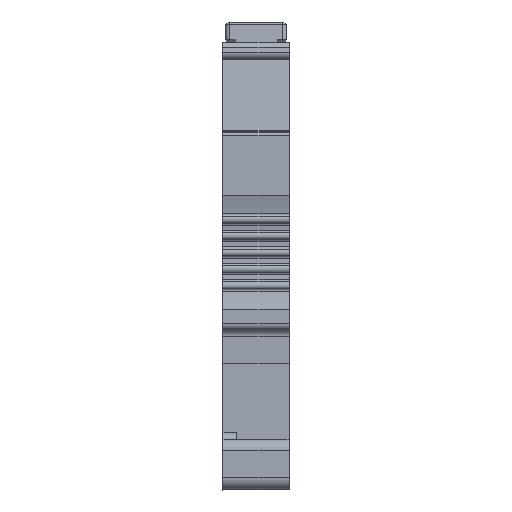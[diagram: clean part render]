
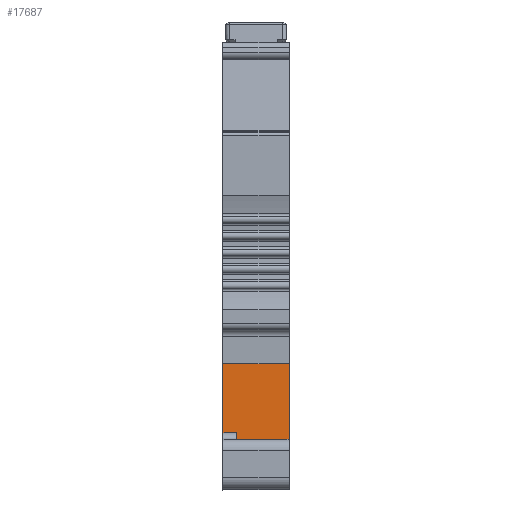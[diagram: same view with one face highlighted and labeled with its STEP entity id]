
A CAD part, front view. The second image highlights one B-rep face of the part: STEP entity #17687.
In plain terms, the highlighted planar face has unit normal (0, -1, 0).
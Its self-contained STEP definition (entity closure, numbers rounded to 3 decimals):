
#1972=DIRECTION('',(0.,0.,1.));
#1973=VECTOR('',#1972,5.45);
#1974=CARTESIAN_POINT('',(6.95,3.6,4.5));
#1975=LINE('',#1974,#1973);
#2803=DIRECTION('',(-1.,0.,0.));
#2804=VECTOR('',#2803,1.05);
#2805=CARTESIAN_POINT('',(8.,3.6,4.5));
#2806=LINE('',#2805,#2804);
#2807=DIRECTION('',(0.,0.,1.));
#2808=VECTOR('',#2807,7.95);
#2809=CARTESIAN_POINT('',(12.15,3.6,2.));
#2810=LINE('',#2809,#2808);
#2811=DIRECTION('',(0.,0.,-1.));
#2812=VECTOR('',#2811,2.5);
#2813=CARTESIAN_POINT('',(8.,3.6,4.5));
#2814=LINE('',#2813,#2812);
#2815=DIRECTION('',(-1.,0.,0.));
#2816=VECTOR('',#2815,5.2);
#2817=CARTESIAN_POINT('',(12.15,3.6,9.95));
#2818=LINE('',#2817,#2816);
#8395=DIRECTION('',(-1.,0.,0.));
#8396=VECTOR('',#8395,4.15);
#8397=CARTESIAN_POINT('',(12.15,3.6,2.));
#8398=LINE('',#8397,#8396);
#11074=CARTESIAN_POINT('',(8.,3.6,2.));
#11075=VERTEX_POINT('',#11074);
#11076=CARTESIAN_POINT('',(8.,3.6,4.5));
#11077=VERTEX_POINT('',#11076);
#11086=CARTESIAN_POINT('',(12.15,3.6,2.));
#11087=CARTESIAN_POINT('',(12.15,3.6,9.95));
#11088=VERTEX_POINT('',#11086);
#11089=VERTEX_POINT('',#11087);
#11090=CARTESIAN_POINT('',(6.95,3.6,9.95));
#11091=VERTEX_POINT('',#11090);
#11092=CARTESIAN_POINT('',(6.95,3.6,4.5));
#11093=VERTEX_POINT('',#11092);
#17670=CARTESIAN_POINT('',(7.,3.6,9.95));
#17671=DIRECTION('',(0.,1.,0.));
#17672=DIRECTION('',(0.,0.,-1.));
#17673=AXIS2_PLACEMENT_3D('',#17670,#17671,#17672);
#17674=PLANE('',#17673);
#17676=ORIENTED_EDGE('',*,*,#17675,.F.);
#17678=ORIENTED_EDGE('',*,*,#17677,.T.);
#17680=ORIENTED_EDGE('',*,*,#17679,.F.);
#17681=ORIENTED_EDGE('',*,*,#17663,.T.);
#17682=ORIENTED_EDGE('',*,*,#16394,.T.);
#17684=ORIENTED_EDGE('',*,*,#17683,.F.);
#17685=EDGE_LOOP('',(#17676,#17678,#17680,#17681,#17682,#17684));
#17686=FACE_OUTER_BOUND('',#17685,.F.);
#17687=ADVANCED_FACE('',(#17686),#17674,.F.);
#16394=EDGE_CURVE('',#11093,#11091,#1975,.T.);
#17663=EDGE_CURVE('',#11077,#11093,#2806,.T.);
#17675=EDGE_CURVE('',#11088,#11089,#2810,.T.);
#17677=EDGE_CURVE('',#11088,#11075,#8398,.T.);
#17679=EDGE_CURVE('',#11077,#11075,#2814,.T.);
#17683=EDGE_CURVE('',#11089,#11091,#2818,.T.);
